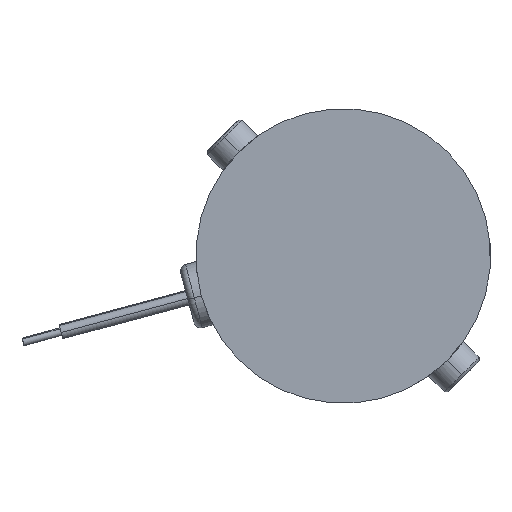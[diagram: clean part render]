
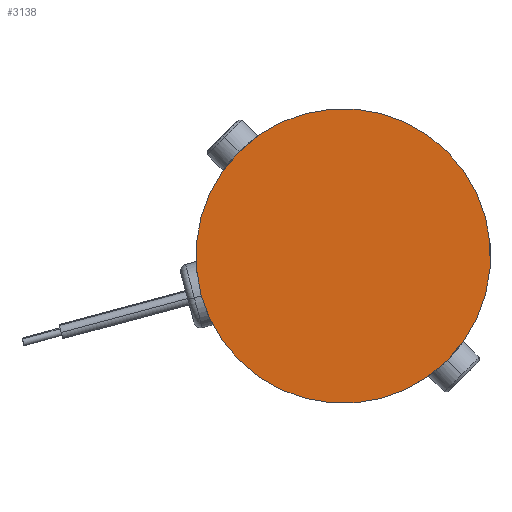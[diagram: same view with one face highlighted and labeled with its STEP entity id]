
A CAD part, left-side view. The second image highlights one B-rep face of the part: STEP entity #3138.
In plain terms, the highlighted planar face has unit normal (-1, 0, 0).
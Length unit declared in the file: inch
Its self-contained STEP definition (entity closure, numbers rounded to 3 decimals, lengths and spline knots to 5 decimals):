
#497 = FACE_OUTER_BOUND ( 'NONE', #6049, .T. ) ;
#550 = DIRECTION ( 'NONE',  ( 0., -0.707, -0.707 ) ) ;
#619 = AXIS2_PLACEMENT_3D ( 'NONE', #3374, #1930, #6802 ) ;
#738 = AXIS2_PLACEMENT_3D ( 'NONE', #6135, #4795, #550 ) ;
#1490 = CIRCLE ( 'NONE', #619, 1.125 ) ;
#1607 = CARTESIAN_POINT ( 'NONE',  ( -5.40487, 4.52397, -2.94308 ) ) ;
#1930 = DIRECTION ( 'NONE',  ( 1., 0., 0. ) ) ;
#2232 = VERTEX_POINT ( 'NONE', #1607 ) ;
#3112 = CARTESIAN_POINT ( 'NONE',  ( -5.40487, 2.93298, -4.53407 ) ) ;
#3138 = ADVANCED_FACE ( 'NONE', ( #497 ), #7374, .F. ) ;
#3218 = EDGE_CURVE ( 'NONE', #2232, #3971, #1490, .T. ) ;
#3374 = CARTESIAN_POINT ( 'NONE',  ( -5.40487, 3.72848, -3.73857 ) ) ;
#3971 = VERTEX_POINT ( 'NONE', #3112 ) ;
#4795 = DIRECTION ( 'NONE',  ( 1., 0., 0. ) ) ;
#5682 = DIRECTION ( 'NONE',  ( 1., 0., 0. ) ) ;
#6049 = EDGE_LOOP ( 'NONE', ( #7636, #8689 ) ) ;
#6135 = CARTESIAN_POINT ( 'NONE',  ( -5.40487, 3.72848, -3.73857 ) ) ;
#6390 = CARTESIAN_POINT ( 'NONE',  ( -5.40487, 3.72848, -3.73857 ) ) ;
#6423 = DIRECTION ( 'NONE',  ( 0., -0.707, -0.707 ) ) ;
#6802 = DIRECTION ( 'NONE',  ( 0., -0.707, -0.707 ) ) ;
#7374 = PLANE ( 'NONE',  #738 ) ;
#7636 = ORIENTED_EDGE ( 'NONE', *, *, #3218, .F. ) ;
#7681 = EDGE_CURVE ( 'NONE', #3971, #2232, #7826, .T. ) ;
#7826 = CIRCLE ( 'NONE', #8845, 1.125 ) ;
#8689 = ORIENTED_EDGE ( 'NONE', *, *, #7681, .F. ) ;
#8845 = AXIS2_PLACEMENT_3D ( 'NONE', #6390, #5682, #6423 ) ;
